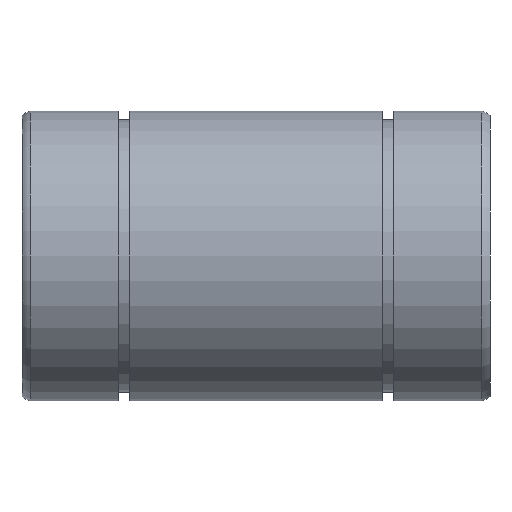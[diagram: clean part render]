
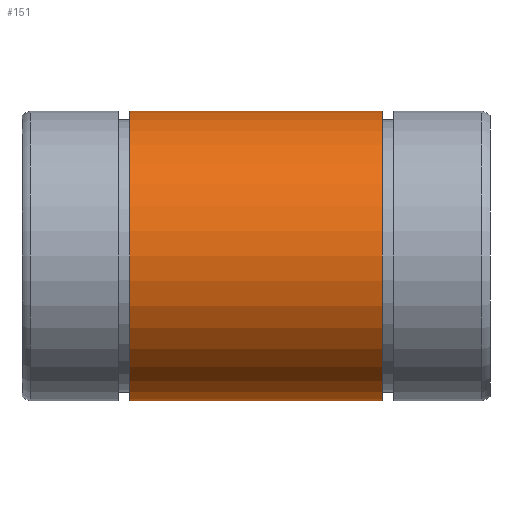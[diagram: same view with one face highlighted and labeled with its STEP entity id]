
A CAD part, front view. The second image highlights one B-rep face of the part: STEP entity #151.
In plain terms, the highlighted cylindrical face has radius 26 mm (diameter 52 mm), a full revolution.
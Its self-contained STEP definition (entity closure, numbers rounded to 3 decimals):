
#117=CARTESIAN_POINT('',(64.65,0.0,26.));
#118=VERTEX_POINT('',#117);
#119=CARTESIAN_POINT('',(64.65,0.0,0.));
#120=DIRECTION('',(-1.0,0.0,0.0));
#121=DIRECTION('',(0.0,0.0,1.0));
#122=AXIS2_PLACEMENT_3D('',#119,#120,#121);
#123=CIRCLE('',#122,26.);
#124=EDGE_CURVE('',#118,#118,#123,.T.);
#132=CARTESIAN_POINT('',(42.,0.0,0.));
#133=DIRECTION('',(-1.0,0.0,0.0));
#134=DIRECTION('',(0.0,0.0,1.0));
#135=AXIS2_PLACEMENT_3D('',#132,#133,#134);
#136=CYLINDRICAL_SURFACE('',#135,26.);
#137=CARTESIAN_POINT('',(19.35,0.0,26.));
#138=VERTEX_POINT('',#137);
#139=CARTESIAN_POINT('',(19.35,0.0,0.));
#140=DIRECTION('',(-1.0,0.0,0.0));
#141=DIRECTION('',(0.0,0.0,1.0));
#142=AXIS2_PLACEMENT_3D('',#139,#140,#141);
#143=CIRCLE('',#142,26.);
#144=EDGE_CURVE('',#138,#138,#143,.T.);
#145=ORIENTED_EDGE('',*,*,#144,.F.);
#146=EDGE_LOOP('',(#145));
#147=FACE_OUTER_BOUND('',#146,.T.);
#148=ORIENTED_EDGE('',*,*,#124,.T.);
#149=EDGE_LOOP('',(#148));
#150=FACE_BOUND('',#149,.T.);
#151=ADVANCED_FACE('',(#147,#150),#136,.T.);
